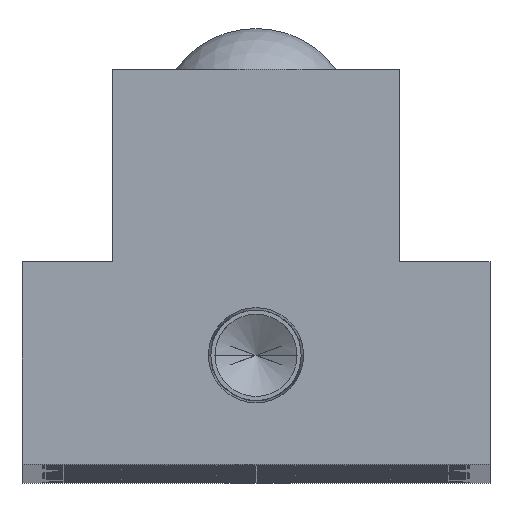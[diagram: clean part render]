
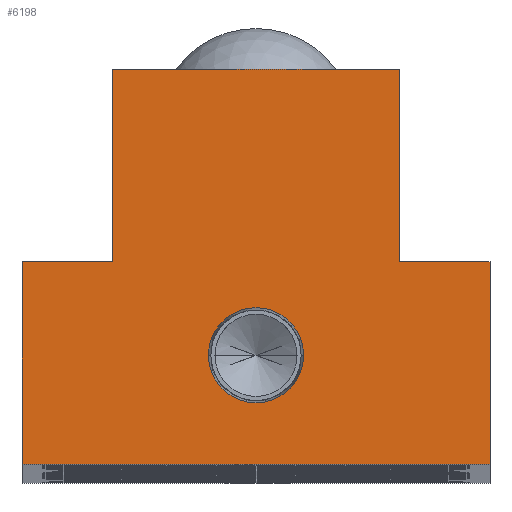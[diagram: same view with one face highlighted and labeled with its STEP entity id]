
A CAD part, top view. The second image highlights one B-rep face of the part: STEP entity #6198.
In plain terms, the highlighted planar face has unit normal (0, 0, 1).
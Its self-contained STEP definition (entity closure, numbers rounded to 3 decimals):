
#240 = VECTOR ( 'NONE', #6273, 1000. ) ;
#267 = CARTESIAN_POINT ( 'NONE',  ( -13.75, 19.5, 0. ) ) ;
#402 = DIRECTION ( 'NONE',  ( 0., 0., -1. ) ) ;
#839 = EDGE_CURVE ( 'NONE', #11988, #15788, #15879, .T. ) ;
#1027 = AXIS2_PLACEMENT_3D ( 'NONE', #13189, #4400, #14660 ) ;
#1254 = CARTESIAN_POINT ( 'NONE',  ( -13.75, 38., 0. ) ) ;
#1298 = VERTEX_POINT ( 'NONE', #16002 ) ;
#1347 = EDGE_CURVE ( 'NONE', #5579, #11949, #15389, .T. ) ;
#1556 = EDGE_CURVE ( 'NONE', #1298, #16776, #16530, .T. ) ;
#1606 = LINE ( 'NONE', #1254, #12840 ) ;
#1725 = EDGE_CURVE ( 'NONE', #4820, #5800, #13771, .T. ) ;
#1818 = PLANE ( 'NONE',  #17768 ) ;
#2116 = VECTOR ( 'NONE', #2792, 1000. ) ;
#2164 = LINE ( 'NONE', #5033, #17324 ) ;
#2222 = ORIENTED_EDGE ( 'NONE', *, *, #12684, .T. ) ;
#2738 = DIRECTION ( 'NONE',  ( 0., -1., 0. ) ) ;
#2751 = CARTESIAN_POINT ( 'NONE',  ( 0., 10.5, 0. ) ) ;
#2792 = DIRECTION ( 'NONE',  ( 0., 1., 0. ) ) ;
#3273 = VERTEX_POINT ( 'NONE', #7912 ) ;
#3325 = CARTESIAN_POINT ( 'NONE',  ( 22.5, 0., 0. ) ) ;
#3907 = CARTESIAN_POINT ( 'NONE',  ( 13.75, 38., 0. ) ) ;
#4196 = CIRCLE ( 'NONE', #1027, 4.574 ) ;
#4239 = DIRECTION ( 'NONE',  ( 1., 0., 0. ) ) ;
#4400 = DIRECTION ( 'NONE',  ( 0., 0., 1. ) ) ;
#4820 = VERTEX_POINT ( 'NONE', #17340 ) ;
#5031 = CARTESIAN_POINT ( 'NONE',  ( -22.5, 19.5, 0. ) ) ;
#5033 = CARTESIAN_POINT ( 'NONE',  ( -22.5, 19.5, 0. ) ) ;
#5251 = CARTESIAN_POINT ( 'NONE',  ( 13.75, 19.5, 0. ) ) ;
#5564 = LINE ( 'NONE', #11565, #2116 ) ;
#5567 = ORIENTED_EDGE ( 'NONE', *, *, #1347, .T. ) ;
#5579 = VERTEX_POINT ( 'NONE', #10052 ) ;
#5600 = ORIENTED_EDGE ( 'NONE', *, *, #5996, .T. ) ;
#5800 = VERTEX_POINT ( 'NONE', #12046 ) ;
#5880 = CARTESIAN_POINT ( 'NONE',  ( 22.5, 19.5, 0. ) ) ;
#5996 = EDGE_CURVE ( 'NONE', #11949, #3273, #5564, .T. ) ;
#6055 = EDGE_CURVE ( 'NONE', #15788, #11988, #4196, .T. ) ;
#6125 = ORIENTED_EDGE ( 'NONE', *, *, #6055, .F. ) ;
#6198 = ADVANCED_FACE ( 'NONE', ( #9210, #17029 ), #1818, .F. ) ;
#6226 = CARTESIAN_POINT ( 'NONE',  ( 0., 0., 0. ) ) ;
#6273 = DIRECTION ( 'NONE',  ( 1., 0., 0. ) ) ;
#7094 = DIRECTION ( 'NONE',  ( -1., 0., 0. ) ) ;
#7346 = ORIENTED_EDGE ( 'NONE', *, *, #16481, .T. ) ;
#7720 = CARTESIAN_POINT ( 'NONE',  ( 4.574, 10.5, 0. ) ) ;
#7832 = CARTESIAN_POINT ( 'NONE',  ( -4.574, 10.5, 0. ) ) ;
#7912 = CARTESIAN_POINT ( 'NONE',  ( 22.5, 19.5, 0. ) ) ;
#8092 = ORIENTED_EDGE ( 'NONE', *, *, #1556, .T. ) ;
#9210 = FACE_BOUND ( 'NONE', #12082, .T. ) ;
#9432 = DIRECTION ( 'NONE',  ( 0., -1., 0. ) ) ;
#9842 = VECTOR ( 'NONE', #7094, 1000. ) ;
#10052 = CARTESIAN_POINT ( 'NONE',  ( -22.5, 0., 0. ) ) ;
#10152 = VERTEX_POINT ( 'NONE', #5251 ) ;
#10156 = AXIS2_PLACEMENT_3D ( 'NONE', #2751, #13009, #4239 ) ;
#10642 = DIRECTION ( 'NONE',  ( -1., 0., 0. ) ) ;
#11436 = CARTESIAN_POINT ( 'NONE',  ( -13.75, 38., 0. ) ) ;
#11452 = VECTOR ( 'NONE', #13194, 1000. ) ;
#11565 = CARTESIAN_POINT ( 'NONE',  ( 22.5, 19.5, 0. ) ) ;
#11577 = EDGE_CURVE ( 'NONE', #10152, #4820, #13427, .T. ) ;
#11949 = VERTEX_POINT ( 'NONE', #3325 ) ;
#11988 = VERTEX_POINT ( 'NONE', #7720 ) ;
#12046 = CARTESIAN_POINT ( 'NONE',  ( -13.75, 38., 0. ) ) ;
#12082 = EDGE_LOOP ( 'NONE', ( #15953, #6125 ) ) ;
#12371 = LINE ( 'NONE', #5880, #11452 ) ;
#12615 = VECTOR ( 'NONE', #14964, 1000. ) ;
#12674 = DIRECTION ( 'NONE',  ( 0., 1., 0. ) ) ;
#12684 = EDGE_CURVE ( 'NONE', #16776, #5579, #2164, .T. ) ;
#12840 = VECTOR ( 'NONE', #2738, 1000. ) ;
#13009 = DIRECTION ( 'NONE',  ( 0., 0., 1. ) ) ;
#13189 = CARTESIAN_POINT ( 'NONE',  ( 0., 10.5, 0. ) ) ;
#13194 = DIRECTION ( 'NONE',  ( -1., 0., 0. ) ) ;
#13427 = LINE ( 'NONE', #3907, #17780 ) ;
#13771 = LINE ( 'NONE', #11436, #9842 ) ;
#14349 = ORIENTED_EDGE ( 'NONE', *, *, #1725, .T. ) ;
#14660 = DIRECTION ( 'NONE',  ( 1., 0., 0. ) ) ;
#14964 = DIRECTION ( 'NONE',  ( -1., 0., 0. ) ) ;
#15075 = CARTESIAN_POINT ( 'NONE',  ( 22.5, 0., 0. ) ) ;
#15389 = LINE ( 'NONE', #15075, #240 ) ;
#15498 = ORIENTED_EDGE ( 'NONE', *, *, #16556, .T. ) ;
#15788 = VERTEX_POINT ( 'NONE', #7832 ) ;
#15879 = CIRCLE ( 'NONE', #10156, 4.574 ) ;
#15953 = ORIENTED_EDGE ( 'NONE', *, *, #839, .F. ) ;
#16002 = CARTESIAN_POINT ( 'NONE',  ( -13.75, 19.5, 0. ) ) ;
#16481 = EDGE_CURVE ( 'NONE', #5800, #1298, #1606, .T. ) ;
#16530 = LINE ( 'NONE', #267, #12615 ) ;
#16556 = EDGE_CURVE ( 'NONE', #3273, #10152, #12371, .T. ) ;
#16776 = VERTEX_POINT ( 'NONE', #5031 ) ;
#16991 = ORIENTED_EDGE ( 'NONE', *, *, #11577, .T. ) ;
#17029 = FACE_OUTER_BOUND ( 'NONE', #17623, .T. ) ;
#17324 = VECTOR ( 'NONE', #9432, 1000. ) ;
#17340 = CARTESIAN_POINT ( 'NONE',  ( 13.75, 38., 0. ) ) ;
#17623 = EDGE_LOOP ( 'NONE', ( #5600, #15498, #16991, #14349, #7346, #8092, #2222, #5567 ) ) ;
#17768 = AXIS2_PLACEMENT_3D ( 'NONE', #6226, #402, #10642 ) ;
#17780 = VECTOR ( 'NONE', #12674, 1000. ) ;
